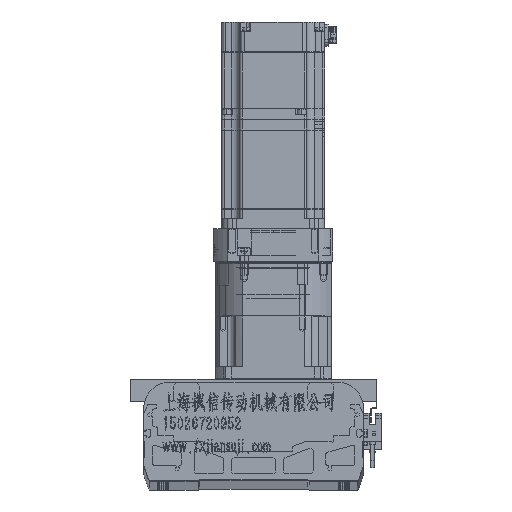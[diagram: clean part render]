
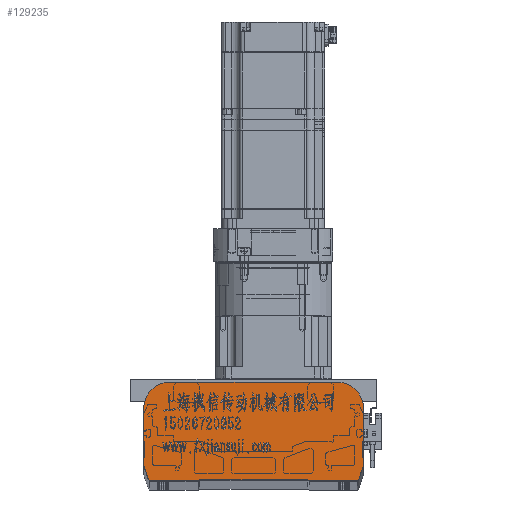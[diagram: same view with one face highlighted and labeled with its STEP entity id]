
A CAD part, top view. The second image highlights one B-rep face of the part: STEP entity #129235.
In plain terms, the highlighted planar face has unit normal (0, 0, 1).
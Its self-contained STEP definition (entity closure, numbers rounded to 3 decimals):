
#369 = FACE_OUTER_BOUND ( 'NONE', #88927, .T. ) ;
#507 = EDGE_CURVE ( 'NONE', #55457, #167648, #132528, .T. ) ;
#2226 = VECTOR ( 'NONE', #82094, 1000. ) ;
#2247 = AXIS2_PLACEMENT_3D ( 'NONE', #18217, #17351, #71045 ) ;
#6128 = CARTESIAN_POINT ( 'NONE',  ( -201.382, 161.037, 3942. ) ) ;
#8096 = VECTOR ( 'NONE', #152835, 1000. ) ;
#8470 = VERTEX_POINT ( 'NONE', #109774 ) ;
#9395 = VERTEX_POINT ( 'NONE', #162806 ) ;
#10779 = CARTESIAN_POINT ( 'NONE',  ( 0., 0., 3942. ) ) ;
#11289 = CARTESIAN_POINT ( 'NONE',  ( -203.382, 161.037, 3942. ) ) ;
#11911 = CIRCLE ( 'NONE', #83758, 2. ) ;
#12482 = ORIENTED_EDGE ( 'NONE', *, *, #100909, .T. ) ;
#13744 = VECTOR ( 'NONE', #57161, 1000. ) ;
#15141 = VERTEX_POINT ( 'NONE', #125120 ) ;
#16093 = CIRCLE ( 'NONE', #140719, 2. ) ;
#16217 = CARTESIAN_POINT ( 'NONE',  ( -204.773, 150.577, 3942. ) ) ;
#17351 = DIRECTION ( 'NONE',  ( 0., 0., 1. ) ) ;
#18217 = CARTESIAN_POINT ( 'NONE',  ( -221.382, 205.211, 3942. ) ) ;
#21741 = DIRECTION ( 'NONE',  ( 1., 0., 0. ) ) ;
#27208 = VECTOR ( 'NONE', #86167, 1000. ) ;
#32821 = EDGE_CURVE ( 'NONE', #134494, #76594, #125359, .T. ) ;
#33277 = CARTESIAN_POINT ( 'NONE',  ( -371.382, 160.711, 3942. ) ) ;
#33390 = VERTEX_POINT ( 'NONE', #16217 ) ;
#35007 = LINE ( 'NONE', #33277, #27208 ) ;
#35360 = DIRECTION ( 'NONE',  ( 0., 0., 1. ) ) ;
#35608 = AXIS2_PLACEMENT_3D ( 'NONE', #10779, #63610, #156428 ) ;
#39610 = VERTEX_POINT ( 'NONE', #6128 ) ;
#40908 = AXIS2_PLACEMENT_3D ( 'NONE', #55878, #108803, #83627 ) ;
#51229 = AXIS2_PLACEMENT_3D ( 'NONE', #93977, #54076, #135571 ) ;
#51870 = CARTESIAN_POINT ( 'NONE',  ( -371.382, 205.211, 3942. ) ) ;
#53162 = PLANE ( 'NONE',  #35608 ) ;
#54076 = DIRECTION ( 'NONE',  ( 0., 0., 1. ) ) ;
#54247 = CARTESIAN_POINT ( 'NONE',  ( -201.486, 160.402, 3942. ) ) ;
#55457 = VERTEX_POINT ( 'NONE', #148268 ) ;
#55878 = CARTESIAN_POINT ( 'NONE',  ( -206.67, 151.211, 3942. ) ) ;
#57161 = DIRECTION ( 'NONE',  ( 0., -1., 0. ) ) ;
#58042 = VERTEX_POINT ( 'NONE', #133410 ) ;
#59860 = DIRECTION ( 'NONE',  ( 0., 0., 1. ) ) ;
#63610 = DIRECTION ( 'NONE',  ( 0., 0., 1. ) ) ;
#64464 = AXIS2_PLACEMENT_3D ( 'NONE', #72865, #59860, #21741 ) ;
#65187 = CARTESIAN_POINT ( 'NONE',  ( -351.382, 225.211, 3942. ) ) ;
#66611 = CARTESIAN_POINT ( 'NONE',  ( -367.535, 149.211, 3942. ) ) ;
#67414 = EDGE_CURVE ( 'NONE', #58042, #134494, #99925, .T. ) ;
#67628 = CARTESIAN_POINT ( 'NONE',  ( -371.382, 225.211, 3942. ) ) ;
#71045 = DIRECTION ( 'NONE',  ( 1., 0., 0. ) ) ;
#72761 = ORIENTED_EDGE ( 'NONE', *, *, #128804, .T. ) ;
#72865 = CARTESIAN_POINT ( 'NONE',  ( -351.382, 205.211, 3942. ) ) ;
#73379 = CIRCLE ( 'NONE', #51229, 2. ) ;
#74546 = CARTESIAN_POINT ( 'NONE',  ( -367.991, 150.577, 3942. ) ) ;
#75977 = ORIENTED_EDGE ( 'NONE', *, *, #85784, .T. ) ;
#76594 = VERTEX_POINT ( 'NONE', #51870 ) ;
#77835 = LINE ( 'NONE', #103017, #162593 ) ;
#79904 = ORIENTED_EDGE ( 'NONE', *, *, #32821, .T. ) ;
#82094 = DIRECTION ( 'NONE',  ( 0., 1., 0. ) ) ;
#83627 = DIRECTION ( 'NONE',  ( 1., 0., 0. ) ) ;
#83758 = AXIS2_PLACEMENT_3D ( 'NONE', #154162, #35360, #88236 ) ;
#85784 = EDGE_CURVE ( 'NONE', #39610, #9395, #121146, .T. ) ;
#86167 = DIRECTION ( 'NONE',  ( 0.317, -0.948, 0. ) ) ;
#88236 = DIRECTION ( 'NONE',  ( 1., 0., 0. ) ) ;
#88927 = EDGE_LOOP ( 'NONE', ( #121043, #79904, #161120, #133022, #116162, #153703, #145818, #138458, #117643, #12482, #75977, #72761 ) ) ;
#90854 = DIRECTION ( 'NONE',  ( 0.317, 0.948, 0. ) ) ;
#91007 = DIRECTION ( 'NONE',  ( 0., 0., 1. ) ) ;
#93977 = CARTESIAN_POINT ( 'NONE',  ( -369.382, 161.037, 3942. ) ) ;
#94560 = EDGE_CURVE ( 'NONE', #8470, #15141, #73379, .T. ) ;
#99925 = LINE ( 'NONE', #153690, #8096 ) ;
#100909 = EDGE_CURVE ( 'NONE', #118254, #39610, #16093, .T. ) ;
#103017 = CARTESIAN_POINT ( 'NONE',  ( -205.23, 149.211, 3942. ) ) ;
#108803 = DIRECTION ( 'NONE',  ( 0., 0., 1. ) ) ;
#109774 = CARTESIAN_POINT ( 'NONE',  ( -371.382, 161.037, 3942. ) ) ;
#110816 = EDGE_CURVE ( 'NONE', #15141, #146343, #35007, .T. ) ;
#112452 = EDGE_CURVE ( 'NONE', #76594, #8470, #119700, .T. ) ;
#116162 = ORIENTED_EDGE ( 'NONE', *, *, #110816, .T. ) ;
#117052 = DIRECTION ( 'NONE',  ( 1., 0., 0. ) ) ;
#117643 = ORIENTED_EDGE ( 'NONE', *, *, #149609, .T. ) ;
#118254 = VERTEX_POINT ( 'NONE', #54247 ) ;
#119368 = EDGE_CURVE ( 'NONE', #146343, #55457, #11911, .T. ) ;
#119531 = DIRECTION ( 'NONE',  ( 1., 0., 0. ) ) ;
#119700 = LINE ( 'NONE', #67628, #13744 ) ;
#120295 = CARTESIAN_POINT ( 'NONE',  ( -201.382, 160.711, 3942. ) ) ;
#121043 = ORIENTED_EDGE ( 'NONE', *, *, #67414, .T. ) ;
#121146 = LINE ( 'NONE', #120295, #2226 ) ;
#121722 = CARTESIAN_POINT ( 'NONE',  ( -206.67, 149.211, 3942. ) ) ;
#125120 = CARTESIAN_POINT ( 'NONE',  ( -371.279, 160.402, 3942. ) ) ;
#125359 = CIRCLE ( 'NONE', #64464, 20. ) ;
#127930 = EDGE_CURVE ( 'NONE', #167648, #33390, #129451, .T. ) ;
#128804 = EDGE_CURVE ( 'NONE', #9395, #58042, #148991, .T. ) ;
#129235 = ADVANCED_FACE ( 'NONE', ( #369 ), #53162, .T. ) ;
#129451 = CIRCLE ( 'NONE', #40908, 2. ) ;
#132528 = LINE ( 'NONE', #66611, #134695 ) ;
#133022 = ORIENTED_EDGE ( 'NONE', *, *, #94560, .T. ) ;
#133410 = CARTESIAN_POINT ( 'NONE',  ( -221.382, 225.211, 3942. ) ) ;
#134494 = VERTEX_POINT ( 'NONE', #65187 ) ;
#134695 = VECTOR ( 'NONE', #119531, 1000. ) ;
#135571 = DIRECTION ( 'NONE',  ( 1., 0., 0. ) ) ;
#138458 = ORIENTED_EDGE ( 'NONE', *, *, #127930, .T. ) ;
#140719 = AXIS2_PLACEMENT_3D ( 'NONE', #11289, #91007, #117052 ) ;
#145818 = ORIENTED_EDGE ( 'NONE', *, *, #507, .T. ) ;
#146343 = VERTEX_POINT ( 'NONE', #74546 ) ;
#148268 = CARTESIAN_POINT ( 'NONE',  ( -366.095, 149.211, 3942. ) ) ;
#148991 = CIRCLE ( 'NONE', #2247, 20. ) ;
#149609 = EDGE_CURVE ( 'NONE', #33390, #118254, #77835, .T. ) ;
#152835 = DIRECTION ( 'NONE',  ( -1., 0., 0. ) ) ;
#153690 = CARTESIAN_POINT ( 'NONE',  ( -201.382, 225.211, 3942. ) ) ;
#153703 = ORIENTED_EDGE ( 'NONE', *, *, #119368, .T. ) ;
#154162 = CARTESIAN_POINT ( 'NONE',  ( -366.095, 151.211, 3942. ) ) ;
#156428 = DIRECTION ( 'NONE',  ( 1., 0., 0. ) ) ;
#161120 = ORIENTED_EDGE ( 'NONE', *, *, #112452, .T. ) ;
#162593 = VECTOR ( 'NONE', #90854, 1000. ) ;
#162806 = CARTESIAN_POINT ( 'NONE',  ( -201.382, 205.211, 3942. ) ) ;
#167648 = VERTEX_POINT ( 'NONE', #121722 ) ;
